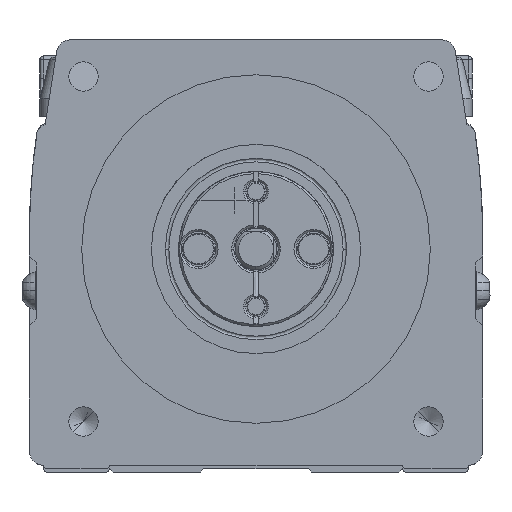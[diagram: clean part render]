
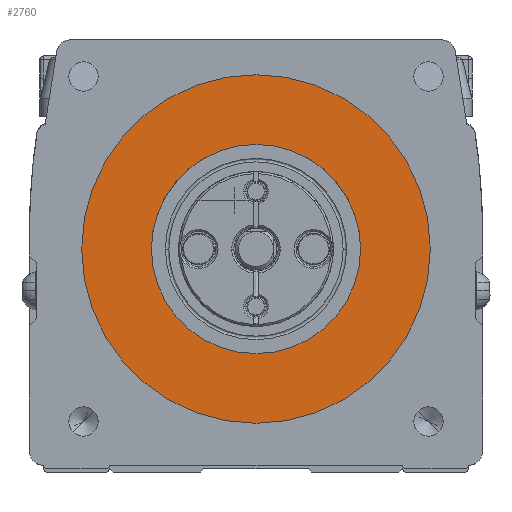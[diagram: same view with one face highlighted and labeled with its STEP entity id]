
A CAD part, left-side view. The second image highlights one B-rep face of the part: STEP entity #2760.
In plain terms, the highlighted planar face has unit normal (-1, 0, 0).
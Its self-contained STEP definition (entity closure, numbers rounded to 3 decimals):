
#2760=ADVANCED_FACE('',(#5058,#5059),#5060,.F.);
#5058=FACE_BOUND('',#9874,.T.);
#5059=FACE_OUTER_BOUND('',#9875,.T.);
#5060=PLANE('',#9876);
#9874=EDGE_LOOP('',(#16925,#16926));
#9875=EDGE_LOOP('',(#16927,#16928));
#9876=AXIS2_PLACEMENT_3D('',#16929,#16930,#16931);
#16925=ORIENTED_EDGE('',*,*,#34937,.T.);
#16926=ORIENTED_EDGE('',*,*,#35035,.T.);
#16927=ORIENTED_EDGE('',*,*,#35068,.T.);
#16928=ORIENTED_EDGE('',*,*,#34929,.T.);
#16929=CARTESIAN_POINT('',(-76.5,0.,0.));
#16930=DIRECTION('',(1.0,0.,0.));
#16931=DIRECTION('',(0.,1.0,0.));
#34929=EDGE_CURVE('',#40828,#40825,#40829,.T.);
#34937=EDGE_CURVE('',#40842,#40839,#40843,.T.);
#35035=EDGE_CURVE('',#40839,#40842,#41004,.T.);
#35068=EDGE_CURVE('',#40825,#40828,#41061,.T.);
#40825=VERTEX_POINT('',#50575);
#40828=VERTEX_POINT('',#50579);
#40829=CIRCLE('',#50580,25.0);
#40839=VERTEX_POINT('',#50615);
#40842=VERTEX_POINT('',#50619);
#40843=CIRCLE('',#50620,15.0);
#41004=CIRCLE('',#50902,15.0);
#41061=CIRCLE('',#51038,25.0);
#50575=CARTESIAN_POINT('',(-76.5,25.,0.));
#50579=CARTESIAN_POINT('',(-76.5,-25.,0.));
#50580=AXIS2_PLACEMENT_3D('',#65609,#65610,#65611);
#50615=CARTESIAN_POINT('',(-76.5,15.0,0.));
#50619=CARTESIAN_POINT('',(-76.5,-15.,0.));
#50620=AXIS2_PLACEMENT_3D('',#65619,#65620,#65621);
#50902=AXIS2_PLACEMENT_3D('',#65779,#65780,#65781);
#51038=AXIS2_PLACEMENT_3D('',#65836,#65837,#65838);
#65609=CARTESIAN_POINT('',(-76.5,0.,0.));
#65610=DIRECTION('',(-1.0,0.,0.));
#65611=DIRECTION('',(0.,1.0,0.));
#65619=CARTESIAN_POINT('',(-76.5,0.,0.));
#65620=DIRECTION('',(1.0,0.,0.));
#65621=DIRECTION('',(0.,1.0,0.));
#65779=CARTESIAN_POINT('',(-76.5,0.,0.));
#65780=DIRECTION('',(1.0,0.,0.));
#65781=DIRECTION('',(0.,1.0,0.));
#65836=CARTESIAN_POINT('',(-76.5,0.,0.));
#65837=DIRECTION('',(-1.0,0.,0.));
#65838=DIRECTION('',(0.,1.0,0.));
